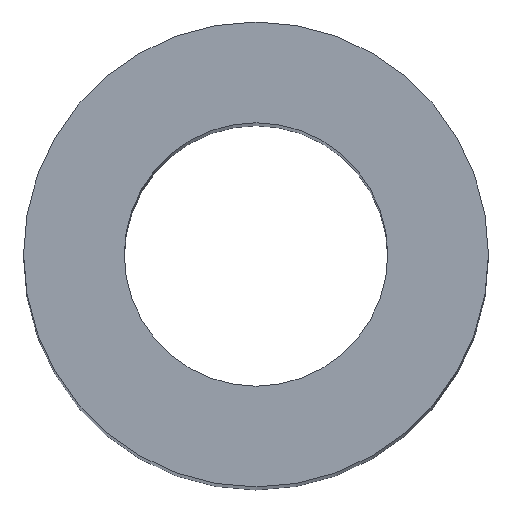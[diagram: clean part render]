
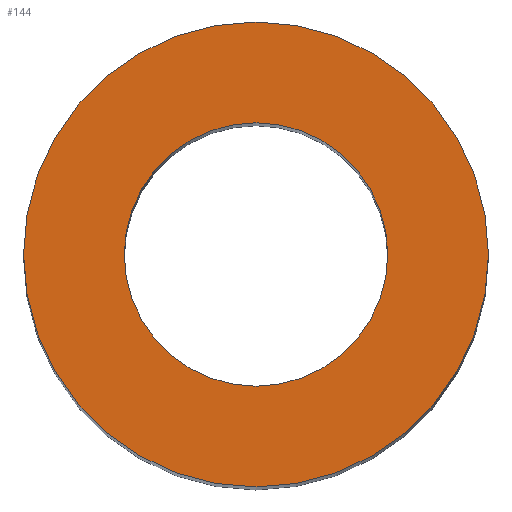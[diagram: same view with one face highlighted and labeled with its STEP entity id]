
A CAD part, top view. The second image highlights one B-rep face of the part: STEP entity #144.
In plain terms, the highlighted planar face has unit normal (0, 0, 1).
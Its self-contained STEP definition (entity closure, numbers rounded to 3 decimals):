
#24 = VERTEX_POINT('',#25);
#25 = CARTESIAN_POINT('',(35.909,19.,22.504));
#32 = CYLINDRICAL_SURFACE('',#33,3.);
#33 = AXIS2_PLACEMENT_3D('',#34,#35,#36);
#34 = CARTESIAN_POINT('',(32.909,19.,0.004));
#35 = DIRECTION('',(-0.,-0.,-1.));
#36 = DIRECTION('',(1.,0.,0.));
#51 = EDGE_CURVE('',#24,#24,#52,.T.);
#52 = SURFACE_CURVE('',#53,(#58,#65),.PCURVE_S1.);
#53 = CIRCLE('',#54,3.);
#54 = AXIS2_PLACEMENT_3D('',#55,#56,#57);
#55 = CARTESIAN_POINT('',(32.909,19.,22.504));
#56 = DIRECTION('',(0.,0.,1.));
#57 = DIRECTION('',(1.,0.,0.));
#58 = PCURVE('',#32,#59);
#59 = DEFINITIONAL_REPRESENTATION('',(#60),#64);
#60 = LINE('',#61,#62);
#61 = CARTESIAN_POINT('',(-0.,-22.5));
#62 = VECTOR('',#63,1.);
#63 = DIRECTION('',(-1.,0.));
#64 = ( GEOMETRIC_REPRESENTATION_CONTEXT(2) 
PARAMETRIC_REPRESENTATION_CONTEXT() REPRESENTATION_CONTEXT('2D SPACE',''
  ) );
#65 = PCURVE('',#66,#71);
#66 = PLANE('',#67);
#67 = AXIS2_PLACEMENT_3D('',#68,#69,#70);
#68 = CARTESIAN_POINT('',(32.909,19.,22.504));
#69 = DIRECTION('',(0.,0.,1.));
#70 = DIRECTION('',(1.,0.,-0.));
#71 = DEFINITIONAL_REPRESENTATION('',(#72),#76);
#72 = CIRCLE('',#73,3.);
#73 = AXIS2_PLACEMENT_2D('',#74,#75);
#74 = CARTESIAN_POINT('',(0.,0.));
#75 = DIRECTION('',(1.,0.));
#76 = ( GEOMETRIC_REPRESENTATION_CONTEXT(2) 
PARAMETRIC_REPRESENTATION_CONTEXT() REPRESENTATION_CONTEXT('2D SPACE',''
  ) );
#133 = CYLINDRICAL_SURFACE('',#134,1.7);
#134 = AXIS2_PLACEMENT_3D('',#135,#136,#137);
#135 = CARTESIAN_POINT('',(32.909,19.,-0.996));
#136 = DIRECTION('',(-0.,-0.,-1.));
#137 = DIRECTION('',(1.,0.,0.));
#144 = ADVANCED_FACE('',(#145,#148),#66,.T.);
#145 = FACE_BOUND('',#146,.T.);
#146 = EDGE_LOOP('',(#147));
#147 = ORIENTED_EDGE('',*,*,#51,.T.);
#148 = FACE_BOUND('',#149,.T.);
#149 = EDGE_LOOP('',(#150));
#150 = ORIENTED_EDGE('',*,*,#151,.T.);
#151 = EDGE_CURVE('',#152,#152,#154,.T.);
#152 = VERTEX_POINT('',#153);
#153 = CARTESIAN_POINT('',(34.609,19.,22.504));
#154 = SURFACE_CURVE('',#155,(#160,#171),.PCURVE_S1.);
#155 = CIRCLE('',#156,1.7);
#156 = AXIS2_PLACEMENT_3D('',#157,#158,#159);
#157 = CARTESIAN_POINT('',(32.909,19.,22.504));
#158 = DIRECTION('',(0.,0.,-1.));
#159 = DIRECTION('',(1.,0.,0.));
#160 = PCURVE('',#66,#161);
#161 = DEFINITIONAL_REPRESENTATION('',(#162),#170);
#162 = ( BOUNDED_CURVE() B_SPLINE_CURVE(2,(#163,#164,#165,#166,#167,#168
,#169),.UNSPECIFIED.,.T.,.F.) B_SPLINE_CURVE_WITH_KNOTS((1,2,2,2,2,1),(
    -2.094,0.,2.094,4.189,6.283,
8.378),.UNSPECIFIED.) CURVE() GEOMETRIC_REPRESENTATION_ITEM() 
RATIONAL_B_SPLINE_CURVE((1.,0.5,1.,0.5,1.,0.5,1.)) REPRESENTATION_ITEM(
  '') );
#163 = CARTESIAN_POINT('',(1.7,0.));
#164 = CARTESIAN_POINT('',(1.7,-2.944));
#165 = CARTESIAN_POINT('',(-0.85,-1.472));
#166 = CARTESIAN_POINT('',(-3.4,0.));
#167 = CARTESIAN_POINT('',(-0.85,1.472));
#168 = CARTESIAN_POINT('',(1.7,2.944));
#169 = CARTESIAN_POINT('',(1.7,0.));
#170 = ( GEOMETRIC_REPRESENTATION_CONTEXT(2) 
PARAMETRIC_REPRESENTATION_CONTEXT() REPRESENTATION_CONTEXT('2D SPACE',''
  ) );
#171 = PCURVE('',#133,#172);
#172 = DEFINITIONAL_REPRESENTATION('',(#173),#177);
#173 = LINE('',#174,#175);
#174 = CARTESIAN_POINT('',(-6.283,-23.5));
#175 = VECTOR('',#176,1.);
#176 = DIRECTION('',(1.,-0.));
#177 = ( GEOMETRIC_REPRESENTATION_CONTEXT(2) 
PARAMETRIC_REPRESENTATION_CONTEXT() REPRESENTATION_CONTEXT('2D SPACE',''
  ) );
